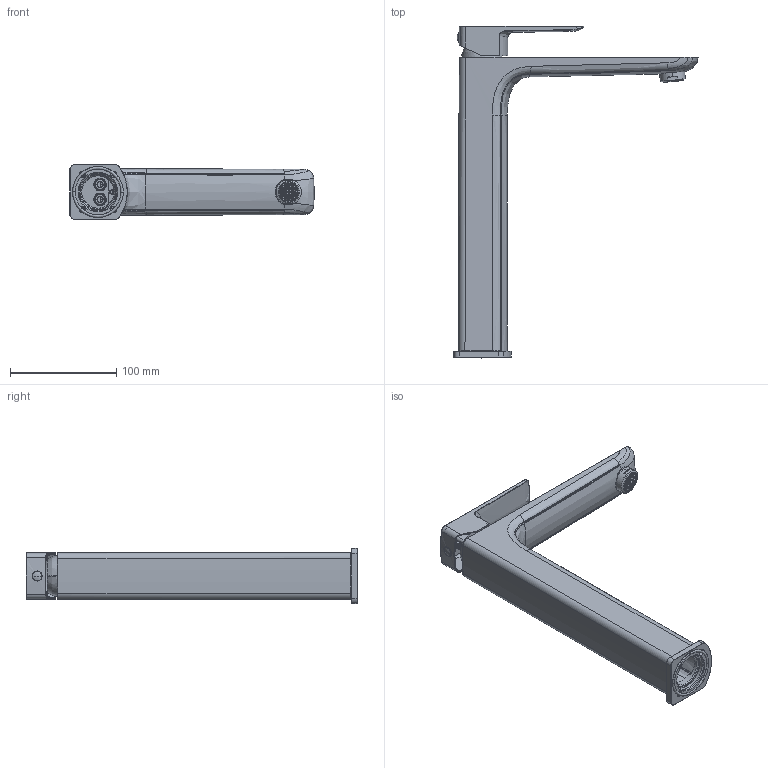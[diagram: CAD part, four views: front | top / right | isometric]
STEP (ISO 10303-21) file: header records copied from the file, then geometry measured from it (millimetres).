
FILE_DESCRIPTION((''),'2;1');
FILE_NAME('PT-239003-3D_ASM','2024-06-20T08:29:59',('GL-JISHU1'),(''),'CREO PARAMETRIC BY PTC INC, 2021063','CREO PARAMETRIC BY PTC INC, 2021063','');
FILE_SCHEMA(('AUTOMOTIVE_DESIGN { 1 0 10303 214 1 1 1 1 }'));
Products named in the file (20): 5ZT-239003-BCR_1; 4FZ-001027-AJJ_1; 3JQ-001534-NAA_1; 3LS-001050-JAA_1; 3YG-001009-AJJ_1; 3ZG-010013-GCR_1; 3BS-181003-HCR_2; 3LS-001063-JAA_1; 3SN-001001-MCR_1; 5DZ-001045-ACR_1; 3LS-001431-JAA_1; 3JQ-001254-NAA_1; 3JQ-001022-NAA_1; 3WK-001004-ACR_1; 3WD-001024-MAA_1; 3JQ-001519-NAA_1; 24WZ-_ASM_1_ASM; 3JQ-001207-NAA_1; PT-239003_ASM_1_ASM; PT-239003-3D_ASM
Assembly tree (25 placements, depth 4):
  PT-239003-3D_ASM
    PT-239003_ASM_1_ASM
      5ZT-239003-BCR_1
      4FZ-001027-AJJ_1
      3JQ-001534-NAA_1
      3LS-001050-JAA_1
      3YG-001009-AJJ_1
      3ZG-010013-GCR_1
      3BS-181003-HCR_2
      3LS-001063-JAA_1
      3SN-001001-MCR_1
      5DZ-001045-ACR_1
      3LS-001431-JAA_1  x4
      3JQ-001254-NAA_1
      3JQ-001022-NAA_1  x4
      24WZ-_ASM_1_ASM
        3WK-001004-ACR_1
        3WD-001024-MAA_1
        3JQ-001519-NAA_1
      3JQ-001207-NAA_1
Bounding box: 230.42 x 313 x 52 mm (x, y, z)
Volume: 212987.7 mm3; surface area: 172126.7 mm2
Topology: 23 solids, 23 shells, 2052 faces, 5989 edges, 3902 vertices
Faces by surface type: cylinder 791, plane 727, bspline 266, torus 143, cone 113, sphere 12
Entity records: 94036 total; most frequent: CARTESIAN_POINT 41905, ORIENTED_EDGE 10966, DIRECTION 9370, EDGE_CURVE 5483, VERTEX_POINT 3575, AXIS2_PLACEMENT_3D 3406, VECTOR 2558, LINE 2558
